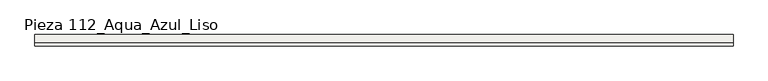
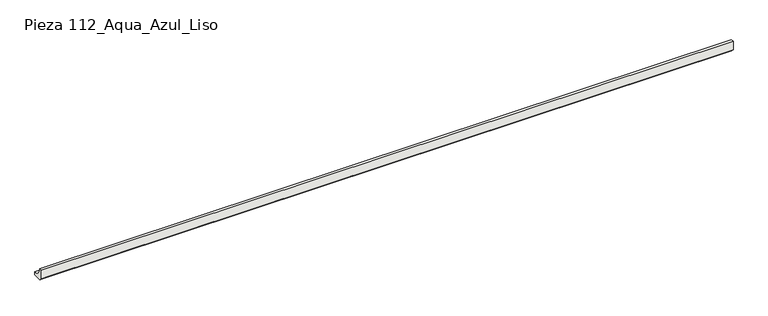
"""IFC4 building model written with IfcOpenShell, lengths in millimetres: slab geometry, ROSA GRES_112 : Pieza 112_Aqua_Azul_Liso."""

import ifcopenshell
import ifcopenshell.guid

model = None  # the IFC model being written
_history = None  # IfcOwnerHistory: only IFC2X3 demands one
_inside = {}  # id of a spatial element -> (the spatial element, [elements in it])
_under = {}  # id of a project, library or spatial element -> (it, [spatial elements below it])
_declared = {}  # id of a project -> (the project, [libraries it declares])
_typed = {}  # id of a type object -> (the type object, [elements of that type])
_made_of = {}  # id of a material, layer set ... -> (it, [elements and type objects made of it])


def new_model(schema):
    """Start an empty IFC model of exactly this schema.

    Asked for "IFC4X3", IfcOpenShell would pick the latest addendum, in which some entities
    have other attributes; the version numbers below select the first issue.
    IFC2X3 requires an IfcOwnerHistory on every rooted entity: one is made here for all.
    """
    global model, _history
    if schema == "IFC4X3":
        model = ifcopenshell.file(schema_version=(4, 3, 0, 0))
    else:
        model = ifcopenshell.file(schema=schema)
    _inside.clear()
    _under.clear()
    _declared.clear()
    _typed.clear()
    _made_of.clear()
    _history = None
    if model.schema == "IFC2X3":
        org = make("IfcOrganization", Name="unknown")
        user = make(
            "IfcPersonAndOrganization",
            ThePerson=make("IfcPerson", FamilyName="unknown"),
            TheOrganization=org,
        )
        app = make(
            "IfcApplication",
            ApplicationDeveloper=org,
            Version="unknown",
            ApplicationFullName="unknown",
            ApplicationIdentifier="unknown",
        )
        _history = make(
            "IfcOwnerHistory",
            OwningUser=user,
            OwningApplication=app,
            ChangeAction="ADDED",
            CreationDate=0,
        )
    return model


def make(cls, **values):
    """One entity of the class cls with the attributes given. An attribute that is None is left unset."""
    return model.create_entity(
        cls, **{name: value for name, value in values.items() if value is not None}
    )


def rooted(cls, **values):
    """An entity with a GlobalId (a new one), such as an element, a storey or a relation."""
    return make(cls, GlobalId=ifcopenshell.guid.new(), OwnerHistory=_history, **values)


def si_unit(unit_type, name, prefix=None):
    """IfcSIUnit, for example si_unit("LENGTHUNIT", "METRE", prefix="MILLI")."""
    return make("IfcSIUnit", UnitType=unit_type, Prefix=prefix, Name=name)


def assignment(units):
    """IfcUnitAssignment: the units of a project."""
    return None if units is None else make("IfcUnitAssignment", Units=units)


def point(xyz):
    """IfcCartesianPoint."""
    return None if xyz is None else make("IfcCartesianPoint", Coordinates=xyz)


def direction(xyz):
    """IfcDirection."""
    return None if xyz is None else make("IfcDirection", DirectionRatios=xyz)


def frame(location, z_axis=None, x_axis=None):
    """IfcAxis2Placement3D, a coordinate frame: its origin and axes. An axis left out is left unset."""
    return make(
        "IfcAxis2Placement3D",
        Location=point(location),
        Axis=direction(z_axis),
        RefDirection=direction(x_axis),
    )


def frame_2d(location, x_axis=None):
    """IfcAxis2Placement2D, a coordinate frame in the plane: its origin and x axis."""
    return make(
        "IfcAxis2Placement2D", Location=point(location), RefDirection=direction(x_axis)
    )


def origin():
    """The frame at (0, 0, 0) with its axes left unset."""
    return frame((0.0, 0.0, 0.0))


def place(relative_to, where):
    """IfcLocalPlacement: puts the frame where relative to a parent placement (None: the world)."""
    return make(
        "IfcLocalPlacement", PlacementRelTo=relative_to, RelativePlacement=where
    )


def context(
    kind, dimensions, precision=None, world=None, true_north=None, identifier=None
):
    """IfcGeometricRepresentationContext, for example the 3D "Model" context."""
    return make(
        "IfcGeometricRepresentationContext",
        ContextIdentifier=identifier,
        ContextType=kind,
        CoordinateSpaceDimension=dimensions,
        Precision=precision,
        WorldCoordinateSystem=world,
        TrueNorth=true_north,
    )


def project(units=None, contexts=None):
    """IfcProject with its units and contexts."""
    return rooted(
        "IfcProject",
        Name="project",
        RepresentationContexts=contexts,
        UnitsInContext=assignment(units),
    )


def spatial(cls, under=None, at=None, **own):
    """A site, building, storey or space (cls), placed at a placement, below another one or the project."""
    s = rooted(cls, ObjectPlacement=at, **own)
    if under is not None:
        _under.setdefault(under.id(), (under, []))[1].append(s)
    return s


def polyline(points):
    """IfcPolyline through the points."""
    return make("IfcPolyline", Points=[point(p) for p in points])


def circle_curve(where, radius):
    """IfcCircle in the frame where."""
    return make("IfcCircle", Position=where, Radius=radius)


def trimmed(basis, trim1, trim2, sense, master):
    """IfcTrimmedCurve: the piece of a basis curve between two trims."""
    return make(
        "IfcTrimmedCurve",
        BasisCurve=basis,
        Trim1=trim1,
        Trim2=trim2,
        SenseAgreement=sense,
        MasterRepresentation=master,
    )


def segment(curve, same_sense, transition):
    """IfcCompositeCurveSegment."""
    return make(
        "IfcCompositeCurveSegment",
        Transition=transition,
        SameSense=same_sense,
        ParentCurve=curve,
    )


def composite_curve(segments, self_intersect=None):
    """IfcCompositeCurve: segments joined end to end."""
    return make("IfcCompositeCurve", Segments=segments, SelfIntersect=self_intersect)


def outline(outer, holes=None, kind="AREA"):
    """IfcArbitraryClosedProfileDef: a profile drawn as a closed curve; with holes, ...WithVoids."""
    if holes is None:
        return make("IfcArbitraryClosedProfileDef", ProfileType=kind, OuterCurve=outer)
    return make(
        "IfcArbitraryProfileDefWithVoids",
        ProfileType=kind,
        OuterCurve=outer,
        InnerCurves=holes,
    )


def extrude(swept, where, along, depth):
    """IfcExtrudedAreaSolid: the profile swept, set in the frame where, extruded along a direction by depth."""
    return make(
        "IfcExtrudedAreaSolid",
        SweptArea=swept,
        Position=where,
        ExtrudedDirection=direction(along),
        Depth=depth,
    )


def shape(context_of_items, identifier, shape_type, items):
    """IfcShapeRepresentation: the items that make up one representation, for example the "Body"."""
    return make(
        "IfcShapeRepresentation",
        ContextOfItems=context_of_items,
        RepresentationIdentifier=identifier,
        RepresentationType=shape_type,
        Items=items,
    )


def source(mapping_origin, context_of_items, identifier, shape_type, items):
    """IfcRepresentationMap: a shape defined once, which mapped items show again and again."""
    return make(
        "IfcRepresentationMap",
        MappingOrigin=mapping_origin,
        MappedRepresentation=shape(context_of_items, identifier, shape_type, items),
    )


def transform(
    local_origin,
    x_axis=None,
    y_axis=None,
    z_axis=None,
    scale=None,
    scale2=None,
    scale3=None,
    uniform=True,
):
    """IfcCartesianTransformationOperator3D, or its non-uniform kind. x_axis, y_axis, z_axis: its Axis1, 2, 3."""
    if uniform:
        return make(
            "IfcCartesianTransformationOperator3D",
            Axis1=direction(x_axis),
            Axis2=direction(y_axis),
            LocalOrigin=point(local_origin),
            Scale=scale,
            Axis3=direction(z_axis),
        )
    return make(
        "IfcCartesianTransformationOperator3DnonUniform",
        Axis1=direction(x_axis),
        Axis2=direction(y_axis),
        LocalOrigin=point(local_origin),
        Scale=scale,
        Axis3=direction(z_axis),
        Scale2=scale2,
        Scale3=scale3,
    )


def mapped(mapping_source, mapping_target):
    """IfcMappedItem: shows the shape of a source again, moved by a transform."""
    return make(
        "IfcMappedItem", MappingSource=mapping_source, MappingTarget=mapping_target
    )


def made_of(thing, what):
    """Note that an element or type object is made of a material, layer set ...; save() writes the relation."""
    if what is not None:
        _made_of.setdefault(what.id(), (what, []))[1].append(thing)
    return thing


def element(
    cls,
    number,
    at=None,
    inside=None,
    cuts=None,
    type_object=None,
    material=None,
    context=None,
    identifier="Body",
    shape_type=None,
    held_by="IfcProductDefinitionShape",
    body=None,
    shapes=None,
    **own,
):
    """One element of the class cls, such as IfcWall. Its Tag is "e" and its number.

    at: its placement. inside: the storey or other place that contains it. cuts: it is an
    opening in that element (IfcRelVoidsElement). A single representation is given by context,
    identifier, shape_type and body (its items); several are given by shapes. held_by: the class
    of the entity that holds the representations. save() writes the other relations.
    """
    e = rooted(cls, Tag="e%d" % number, ObjectPlacement=at, **own)
    if body is not None:
        shapes = [shape(context, identifier, shape_type, body)]
    if shapes is not None:
        e.Representation = make(held_by, Representations=shapes)
    if inside is not None:
        _inside.setdefault(inside.id(), (inside, []))[1].append(e)
    if cuts is not None:
        rooted(
            "IfcRelVoidsElement", RelatingBuildingElement=cuts, RelatedOpeningElement=e
        )
    if type_object is not None:
        _typed.setdefault(type_object.id(), (type_object, []))[1].append(e)
    return made_of(e, material)


def aggregate(whole, parts):
    """IfcRelAggregates: a whole, such as a stair, and the parts it consists of."""
    return rooted("IfcRelAggregates", RelatingObject=whole, RelatedObjects=parts)


def save(model, path):
    """Write the relations noted so far, then the file.

    IfcRelAggregates (storeys below a building ...), IfcRelContainedInSpatialStructure (elements
    in a storey), IfcRelDefinesByType, IfcRelAssociatesMaterial and IfcRelDeclares: one each for
    every whole, place, type object, material and project.
    """
    for whole, parts in _under.values():
        aggregate(whole, parts)
    for where, things in _inside.values():
        rooted(
            "IfcRelContainedInSpatialStructure",
            RelatedElements=things,
            RelatingStructure=where,
        )
    for kind, things in _typed.values():
        rooted("IfcRelDefinesByType", RelatedObjects=things, RelatingType=kind)
    for what, things in _made_of.values():
        rooted("IfcRelAssociatesMaterial", RelatedObjects=things, RelatingMaterial=what)
    for by, libraries in _declared.values():
        rooted("IfcRelDeclares", RelatingContext=by, RelatedDefinitions=libraries)
    model.write(path)


def pieza_112_aqua_azul_liso_19044048(model_context):
    return source(origin(), model_context, "Body", "SweptSolid", [
        extrude(outline(composite_curve([segment(polyline([(0.0, 8.7114978), (0.0, 40.0), (9.9734114, 40.0)]), True, "CONTINUOUS"), segment(trimmed(circle_curve(frame_2d((39.9955547, 39.9955547)), 30.0221435), [point((9.9734114, 40.0))], [point((40.0, 9.9734114))], True, "CARTESIAN"), True, "CONTINUOUS"), segment(polyline([(40.0, 9.9734114), (40.0, 0.0), (8.7114978, 0.0), (0.0, 8.7114978)]), True, "CONTINUOUS")], self_intersect=False)), frame((0.0, 0.0, 0.0), z_axis=(1.0, 0.0, 0.0), x_axis=(0.0, 1.0, 0.0)), (0.0, 0.0, 1.0), 2470.6372374),
    ])


if __name__ == "__main__":
    model = new_model("IFC4")
    model_context = context("Model", 3, world=origin())
    ifc_project = project(units=[si_unit("LENGTHUNIT", "METRE", prefix="MILLI")], contexts=[model_context])
    site = spatial("IfcSite", under=ifc_project)
    building = spatial("IfcBuilding", under=site)
    placement = place(None, origin())
    pieza_112_aqua_azul_liso_shape = pieza_112_aqua_azul_liso_19044048(model_context)
    element("IfcSlab", 1, ObjectType="ROSA GRES_112 : Pieza 112_Aqua_Azul_Liso", at=placement, inside=building, context=model_context, shape_type="MappedRepresentation", body=[
        mapped(pieza_112_aqua_azul_liso_shape, transform((0.0, 0.0, 0.0), x_axis=(1.0, 0.0, 0.0), y_axis=(0.0, 1.0, 0.0), z_axis=(0.0, 0.0, 1.0))),
    ])
    save(model, "model.ifc")
